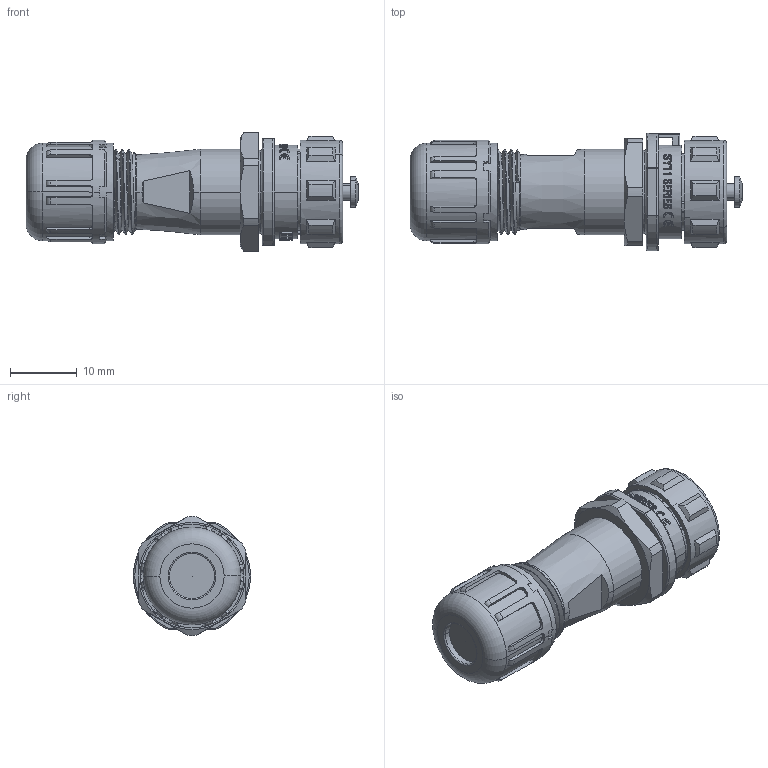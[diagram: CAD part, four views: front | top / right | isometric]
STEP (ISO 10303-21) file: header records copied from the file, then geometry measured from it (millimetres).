
FILE_DESCRIPTION((''),'2;1');
FILE_NAME('PRT0001','2021-03-22T',('Administrator'),(''),'CREO PARAMETRIC BY PTC INC, 2016130','CREO PARAMETRIC BY PTC INC, 2016130','');
FILE_SCHEMA(('AUTOMOTIVE_DESIGN { 1 0 10303 214 1 1 1 1 }'));
Length unit declared in the file: millimetre
Products named in the file (1): PRT0001
Bounding box: 49.6 x 17.5 x 17.8 mm (x, y, z)
Volume: 6760.4 mm3; surface area: 4504.3 mm2
Topology: 1 solids, 3 shells, 682 faces, 1851 edges, 1206 vertices
Faces by surface type: plane 274, bspline 157, cylinder 153, cone 58, torus 28, sphere 12
Entity records: 30419 total; most frequent: CARTESIAN_POINT 14398, ORIENTED_EDGE 3674, DIRECTION 2794, EDGE_CURVE 1837, VERTEX_POINT 1206, AXIS2_PLACEMENT_3D 1013, VECTOR 768, LINE 768
